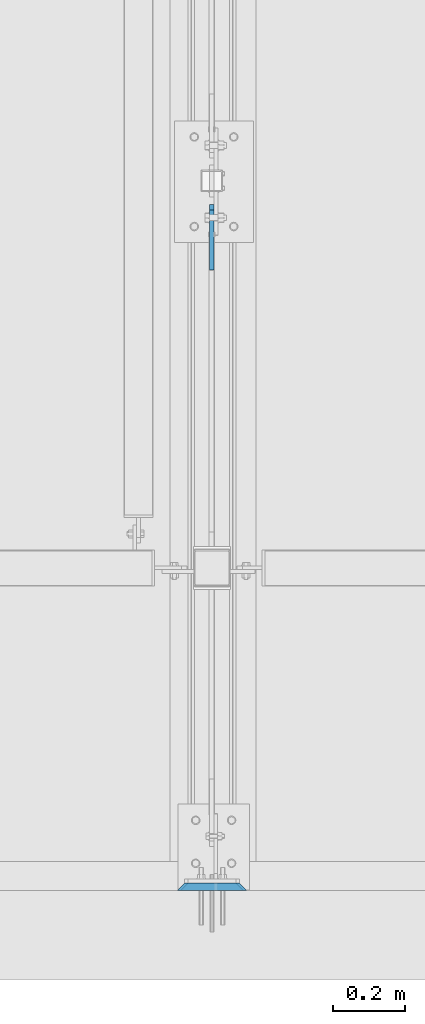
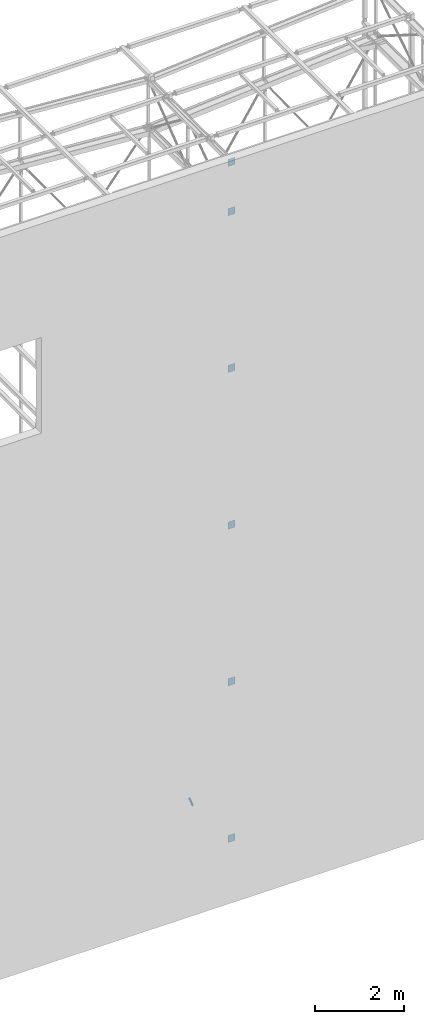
# One storey, part 118 of 271: 7 plates, 7 elements without a shape of their own.
"""IFC2X3 building model written with IfcOpenShell, lengths in millimetres."""

from ifc_helpers import new_model, si_unit, frame, origin_with_axes, place, context, subcontext, project, spatial, polyline, outline, extrude, boolean, material, type_object, element, aggregate, save


model = new_model("IFC2X3")

# Units and contexts
model_context = context("Model", 3, precision=1e-05, world=origin_with_axes())
body_context = subcontext(model_context, "Body", "Model", "MODEL_VIEW")
ifc_project = project(units=[si_unit("LENGTHUNIT", "METRE", prefix="MILLI"), si_unit("AREAUNIT", "SQUARE_METRE"), si_unit("VOLUMEUNIT", "CUBIC_METRE"), si_unit("MASSUNIT", "GRAM", prefix="KILO"), si_unit("TIMEUNIT", "SECOND"), si_unit("PLANEANGLEUNIT", "RADIAN"), si_unit("SOLIDANGLEUNIT", "STERADIAN"), si_unit("THERMODYNAMICTEMPERATUREUNIT", "DEGREE_CELSIUS"), si_unit("LUMINOUSINTENSITYUNIT", "LUMEN")], contexts=[model_context])

# Site, building, storey
site_placement = place(None, origin_with_axes())
site = spatial("IfcSite", under=ifc_project, at=site_placement, Name="Undefined", CompositionType="ELEMENT")
building_placement = place(site_placement, origin_with_axes())
building = spatial("IfcBuilding", under=site, at=building_placement, Name="Undefined", CompositionType="ELEMENT")
storey_placement = place(building_placement, origin_with_axes())
storey = spatial("IfcBuildingStorey", under=building, at=storey_placement, Name="Undefined", CompositionType="ELEMENT", Elevation=0.0)

# Assembly, plate
assembly_1_placement = place(storey_placement, origin_with_axes())
assembly_1 = element("IfcElementAssembly", 1, at=assembly_1_placement, inside=storey, AssemblyPlace="NOTDEFINED", PredefinedType="RIGID_FRAME")
ifc_material_1 = material(Name="STEEL/S355JR")
plate_type_1 = type_object("IfcPlateType", Name="BL12*56", PredefinedType="NOTDEFINED")
plate_1_placement = place(assembly_1_placement, frame((6347.37568798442, 1877.15039979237, 1327.23622031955), z_axis=(-1.0, 0.0, 1.38777878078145e-17), x_axis=(0.0, 0.98459558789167, -0.174847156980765)))
plate_1 = element("IfcPlate", 2, at=plate_1_placement, type_object=plate_type_1, material=ifc_material_1, Name="BLACHA", ObjectType="BL12*56", context=body_context, shape_type="SweptSolid", body=[
    extrude(outline(polyline([(0.0, 0.0), (21.2132034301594, 1.09139364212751e-11), (39.5979804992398, 18.3847751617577), (39.5979804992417, 39.5979804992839), (-86.9741363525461, 166.170089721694), (-100.762718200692, 152.381515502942), (-30.0520401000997, 81.670829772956), (-42.0728530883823, 69.6500167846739), (-112.783531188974, 140.36070251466), (-126.57211303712, 126.57211303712), (0.0, 0.0)])), frame((0.0, 0.0, -6.0), z_axis=(0.0, 0.0, 1.0), x_axis=(1.0, 0.0, 0.0)), (0.0, 0.0, 1.0), 12.0),
])
aggregate(assembly_1, [plate_1])

assembly_2_placement = place(storey_placement, origin_with_axes())
assembly_2 = element("IfcElementAssembly", 3, at=assembly_2_placement, inside=storey, Name="GROUT", AssemblyPlace="NOTDEFINED", PredefinedType="NOTDEFINED")
ifc_material_2 = material(Name="Undefined/GROUT")
plate_type_2 = type_object("IfcPlateType", Name="BL20*193", PredefinedType="NOTDEFINED")
plate_2_placement = place(assembly_2_placement, frame((6251.87568709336, 9.32498425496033, 1464.34999990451), z_axis=(0.0, 1.0, 0.0), x_axis=(1.0, 0.0, 0.0)))
plate_2 = element("IfcPlate", 4, at=plate_2_placement, type_object=plate_type_2, material=ifc_material_2, Name="GROUT", ObjectType="BL20*193", context=body_context, shape_type="CSG", body=[
    boolean("DIFFERENCE", boolean("DIFFERENCE", boolean("DIFFERENCE", boolean("DIFFERENCE", extrude(outline(polyline([(0.0, 0.0), (193.0, 0.0), (193.0, 200.0), (0.0, 200.0), (0.0, 0.0)])), frame((0.0, 0.0, -10.0), z_axis=(0.0, 0.0, 1.0), x_axis=(1.0, 0.0, 0.0)), (0.0, 0.0, 1.0), 20.0), extrude(outline(polyline([(0.0, 0.0), (44.2842712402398, -1.45519152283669e-11), (22.1421356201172, 22.1421356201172), (0.0, 0.0)])), frame((-5.65685424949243, 208.0, -15.6568542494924), z_axis=(0.0, -1.0, 0.0), x_axis=(0.707106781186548, 0.0, 0.707106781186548)), (0.0, 0.0, 1.0), 216.0)), extrude(outline(polyline([(0.0, 0.0), (42.2842712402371, -1.54614099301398e-11), (21.1421356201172, 21.1421356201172), (0.0, 0.0)])), frame((200.0, 204.949747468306, -14.9497474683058), z_axis=(-1.0, 0.0, 1.38777878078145e-17), x_axis=(0.0, -0.707106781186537, 0.707106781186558)), (0.0, 0.0, 1.0), 207.0)), extrude(outline(polyline([(0.0, 0.0), (40.2842712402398, -1.45519152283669e-11), (20.1421356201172, 20.1421356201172), (0.0, 0.0)])), frame((197.242640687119, -6.0, -14.2426406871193), z_axis=(0.0, 1.0, 0.0), x_axis=(-0.707106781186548, 0.0, 0.707106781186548)), (0.0, 0.0, 1.0), 212.0)), extrude(outline(polyline([(0.0, 0.0), (38.284271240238, -1.45519152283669e-11), (19.1421356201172, 19.1421356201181), (0.0, 0.0)])), frame((-5.0, -3.53553390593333, -13.5355339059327), z_axis=(1.0, 0.0, 0.0), x_axis=(0.0, 0.707106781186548, 0.707106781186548)), (0.0, 0.0, 1.0), 203.0)),
])
aggregate(assembly_2, [plate_2])

assembly_3_placement = place(storey_placement, origin_with_axes())
assembly_3 = element("IfcElementAssembly", 5, at=assembly_3_placement, inside=storey, Name="GROUT", AssemblyPlace="NOTDEFINED", PredefinedType="NOTDEFINED")
plate_3_placement = place(assembly_3_placement, frame((6251.87568709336, 9.32498425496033, 18744.3499999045), z_axis=(0.0, 1.0, 0.0), x_axis=(1.0, 0.0, 0.0)))
plate_3 = element("IfcPlate", 6, at=plate_3_placement, type_object=plate_type_2, material=ifc_material_2, Name="GROUT", ObjectType="BL20*193", context=body_context, shape_type="CSG", body=[
    boolean("DIFFERENCE", boolean("DIFFERENCE", boolean("DIFFERENCE", boolean("DIFFERENCE", extrude(outline(polyline([(0.0, 0.0), (193.0, 0.0), (193.0, 200.0), (0.0, 200.0), (0.0, 0.0)])), frame((0.0, 0.0, -10.0), z_axis=(0.0, 0.0, 1.0), x_axis=(1.0, 0.0, 0.0)), (0.0, 0.0, 1.0), 20.0), extrude(outline(polyline([(0.0, 0.0), (44.2842712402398, -1.45519152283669e-11), (22.1421356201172, 22.1421356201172), (0.0, 0.0)])), frame((-5.65685424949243, 208.0, -15.6568542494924), z_axis=(0.0, -1.0, 0.0), x_axis=(0.707106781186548, 0.0, 0.707106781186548)), (0.0, 0.0, 1.0), 216.0)), extrude(outline(polyline([(0.0, 0.0), (42.2842712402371, -1.54614099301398e-11), (21.1421356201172, 21.1421356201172), (0.0, 0.0)])), frame((200.0, 204.949747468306, -14.9497474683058), z_axis=(-1.0, 0.0, 1.38777878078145e-17), x_axis=(0.0, -0.707106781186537, 0.707106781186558)), (0.0, 0.0, 1.0), 207.0)), extrude(outline(polyline([(0.0, 0.0), (40.2842712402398, -1.45519152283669e-11), (20.1421356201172, 20.1421356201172), (0.0, 0.0)])), frame((197.242640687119, -6.0, -14.2426406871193), z_axis=(0.0, 1.0, 0.0), x_axis=(-0.707106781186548, 0.0, 0.707106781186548)), (0.0, 0.0, 1.0), 212.0)), extrude(outline(polyline([(0.0, 0.0), (38.284271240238, -1.45519152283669e-11), (19.1421356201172, 19.1421356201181), (0.0, 0.0)])), frame((-5.0, -3.53553390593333, -13.5355339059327), z_axis=(1.0, 0.0, 0.0), x_axis=(0.0, 0.707106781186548, 0.707106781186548)), (0.0, 0.0, 1.0), 203.0)),
])
aggregate(assembly_3, [plate_3])

assembly_4_placement = place(storey_placement, origin_with_axes())
assembly_4 = element("IfcElementAssembly", 7, at=assembly_4_placement, inside=storey, Name="GROUT", AssemblyPlace="NOTDEFINED", PredefinedType="NOTDEFINED")
plate_4_placement = place(assembly_4_placement, frame((6251.87568709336, 9.32498425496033, 5784.34999990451), z_axis=(0.0, 1.0, 0.0), x_axis=(1.0, 0.0, 0.0)))
plate_4 = element("IfcPlate", 8, at=plate_4_placement, type_object=plate_type_2, material=ifc_material_2, Name="GROUT", ObjectType="BL20*193", context=body_context, shape_type="CSG", body=[
    boolean("DIFFERENCE", boolean("DIFFERENCE", boolean("DIFFERENCE", boolean("DIFFERENCE", extrude(outline(polyline([(0.0, 0.0), (193.0, 0.0), (193.0, 200.0), (0.0, 200.0), (0.0, 0.0)])), frame((0.0, 0.0, -10.0), z_axis=(0.0, 0.0, 1.0), x_axis=(1.0, 0.0, 0.0)), (0.0, 0.0, 1.0), 20.0), extrude(outline(polyline([(0.0, 0.0), (44.2842712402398, -1.45519152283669e-11), (22.1421356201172, 22.1421356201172), (0.0, 0.0)])), frame((-5.65685424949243, 208.0, -15.6568542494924), z_axis=(0.0, -1.0, 0.0), x_axis=(0.707106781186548, 0.0, 0.707106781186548)), (0.0, 0.0, 1.0), 216.0)), extrude(outline(polyline([(0.0, 0.0), (42.2842712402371, -1.54614099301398e-11), (21.1421356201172, 21.1421356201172), (0.0, 0.0)])), frame((200.0, 204.949747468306, -14.9497474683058), z_axis=(-1.0, 0.0, 1.38777878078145e-17), x_axis=(0.0, -0.707106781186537, 0.707106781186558)), (0.0, 0.0, 1.0), 207.0)), extrude(outline(polyline([(0.0, 0.0), (40.2842712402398, -1.45519152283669e-11), (20.1421356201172, 20.1421356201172), (0.0, 0.0)])), frame((197.242640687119, -6.0, -14.2426406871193), z_axis=(0.0, 1.0, 0.0), x_axis=(-0.707106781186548, 0.0, 0.707106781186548)), (0.0, 0.0, 1.0), 212.0)), extrude(outline(polyline([(0.0, 0.0), (38.284271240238, -1.45519152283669e-11), (19.1421356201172, 19.1421356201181), (0.0, 0.0)])), frame((-5.0, -3.53553390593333, -13.5355339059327), z_axis=(1.0, 0.0, 0.0), x_axis=(0.0, 0.707106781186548, 0.707106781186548)), (0.0, 0.0, 1.0), 203.0)),
])
aggregate(assembly_4, [plate_4])

assembly_5_placement = place(storey_placement, origin_with_axes())
assembly_5 = element("IfcElementAssembly", 9, at=assembly_5_placement, inside=storey, Name="GROUT", AssemblyPlace="NOTDEFINED", PredefinedType="NOTDEFINED")
plate_5_placement = place(assembly_5_placement, frame((6251.87568709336, 9.32498425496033, 10104.3499999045), z_axis=(0.0, 1.0, 0.0), x_axis=(1.0, 0.0, 0.0)))
plate_5 = element("IfcPlate", 10, at=plate_5_placement, type_object=plate_type_2, material=ifc_material_2, Name="GROUT", ObjectType="BL20*193", context=body_context, shape_type="CSG", body=[
    boolean("DIFFERENCE", boolean("DIFFERENCE", boolean("DIFFERENCE", boolean("DIFFERENCE", extrude(outline(polyline([(0.0, 0.0), (193.0, 0.0), (193.0, 200.0), (0.0, 200.0), (0.0, 0.0)])), frame((0.0, 0.0, -10.0), z_axis=(0.0, 0.0, 1.0), x_axis=(1.0, 0.0, 0.0)), (0.0, 0.0, 1.0), 20.0), extrude(outline(polyline([(0.0, 0.0), (44.2842712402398, -1.45519152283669e-11), (22.1421356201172, 22.1421356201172), (0.0, 0.0)])), frame((-5.65685424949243, 208.0, -15.6568542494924), z_axis=(0.0, -1.0, 0.0), x_axis=(0.707106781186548, 0.0, 0.707106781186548)), (0.0, 0.0, 1.0), 216.0)), extrude(outline(polyline([(0.0, 0.0), (42.2842712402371, -1.54614099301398e-11), (21.1421356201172, 21.1421356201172), (0.0, 0.0)])), frame((200.0, 204.949747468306, -14.9497474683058), z_axis=(-1.0, 0.0, 1.38777878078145e-17), x_axis=(0.0, -0.707106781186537, 0.707106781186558)), (0.0, 0.0, 1.0), 207.0)), extrude(outline(polyline([(0.0, 0.0), (40.2842712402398, -1.45519152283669e-11), (20.1421356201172, 20.1421356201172), (0.0, 0.0)])), frame((197.242640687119, -6.0, -14.2426406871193), z_axis=(0.0, 1.0, 0.0), x_axis=(-0.707106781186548, 0.0, 0.707106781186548)), (0.0, 0.0, 1.0), 212.0)), extrude(outline(polyline([(0.0, 0.0), (38.284271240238, -1.45519152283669e-11), (19.1421356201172, 19.1421356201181), (0.0, 0.0)])), frame((-5.0, -3.53553390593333, -13.5355339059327), z_axis=(1.0, 0.0, 0.0), x_axis=(0.0, 0.707106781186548, 0.707106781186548)), (0.0, 0.0, 1.0), 203.0)),
])
aggregate(assembly_5, [plate_5])

assembly_6_placement = place(storey_placement, origin_with_axes())
assembly_6 = element("IfcElementAssembly", 11, at=assembly_6_placement, inside=storey, Name="GROUT", AssemblyPlace="NOTDEFINED", PredefinedType="NOTDEFINED")
plate_6_placement = place(assembly_6_placement, frame((6251.87568709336, 9.32498425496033, 14424.3499999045), z_axis=(0.0, 1.0, 0.0), x_axis=(1.0, 0.0, 0.0)))
plate_6 = element("IfcPlate", 12, at=plate_6_placement, type_object=plate_type_2, material=ifc_material_2, Name="GROUT", ObjectType="BL20*193", context=body_context, shape_type="CSG", body=[
    boolean("DIFFERENCE", boolean("DIFFERENCE", boolean("DIFFERENCE", boolean("DIFFERENCE", extrude(outline(polyline([(0.0, 0.0), (193.0, 0.0), (193.0, 200.0), (0.0, 200.0), (0.0, 0.0)])), frame((0.0, 0.0, -10.0), z_axis=(0.0, 0.0, 1.0), x_axis=(1.0, 0.0, 0.0)), (0.0, 0.0, 1.0), 20.0), extrude(outline(polyline([(0.0, 0.0), (44.2842712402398, -1.45519152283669e-11), (22.1421356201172, 22.1421356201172), (0.0, 0.0)])), frame((-5.65685424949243, 208.0, -15.6568542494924), z_axis=(0.0, -1.0, 0.0), x_axis=(0.707106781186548, 0.0, 0.707106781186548)), (0.0, 0.0, 1.0), 216.0)), extrude(outline(polyline([(0.0, 0.0), (42.2842712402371, -1.54614099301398e-11), (21.1421356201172, 21.1421356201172), (0.0, 0.0)])), frame((200.0, 204.949747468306, -14.9497474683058), z_axis=(-1.0, 0.0, 1.38777878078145e-17), x_axis=(0.0, -0.707106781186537, 0.707106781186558)), (0.0, 0.0, 1.0), 207.0)), extrude(outline(polyline([(0.0, 0.0), (40.2842712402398, -1.45519152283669e-11), (20.1421356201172, 20.1421356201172), (0.0, 0.0)])), frame((197.242640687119, -6.0, -14.2426406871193), z_axis=(0.0, 1.0, 0.0), x_axis=(-0.707106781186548, 0.0, 0.707106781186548)), (0.0, 0.0, 1.0), 212.0)), extrude(outline(polyline([(0.0, 0.0), (38.284271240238, -1.45519152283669e-11), (19.1421356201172, 19.1421356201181), (0.0, 0.0)])), frame((-5.0, -3.53553390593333, -13.5355339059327), z_axis=(1.0, 0.0, 0.0), x_axis=(0.0, 0.707106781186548, 0.707106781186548)), (0.0, 0.0, 1.0), 203.0)),
])
aggregate(assembly_6, [plate_6])

assembly_7_placement = place(storey_placement, origin_with_axes())
assembly_7 = element("IfcElementAssembly", 13, at=assembly_7_placement, inside=storey, Name="GROUT", AssemblyPlace="NOTDEFINED", PredefinedType="NOTDEFINED")
plate_type_3 = type_object("IfcPlateType", Name="BL20*174", PredefinedType="NOTDEFINED")
plate_7_placement = place(assembly_7_placement, frame((6261.37568709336, 9.32498425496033, 20104.3499999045), z_axis=(0.0, 1.0, 0.0), x_axis=(1.0, 0.0, 0.0)))
plate_7 = element("IfcPlate", 14, at=plate_7_placement, type_object=plate_type_3, material=ifc_material_2, Name="GROUT", ObjectType="BL20*174", context=body_context, shape_type="CSG", body=[
    boolean("DIFFERENCE", boolean("DIFFERENCE", boolean("DIFFERENCE", boolean("DIFFERENCE", extrude(outline(polyline([(0.0, 0.0), (174.0, 0.0), (174.0, 200.0), (0.0, 200.0), (0.0, 0.0)])), frame((0.0, 0.0, -10.0), z_axis=(0.0, 0.0, 1.0), x_axis=(1.0, 0.0, 0.0)), (0.0, 0.0, 1.0), 20.0), extrude(outline(polyline([(0.0, 0.0), (44.2842712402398, -1.45519152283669e-11), (22.1421356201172, 22.1421356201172), (0.0, 0.0)])), frame((-5.65685424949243, 208.0, -15.6568542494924), z_axis=(0.0, -1.0, 0.0), x_axis=(0.707106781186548, 0.0, 0.707106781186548)), (0.0, 0.0, 1.0), 216.0)), extrude(outline(polyline([(0.0, 0.0), (42.2842712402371, -1.54614099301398e-11), (21.1421356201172, 21.1421356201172), (0.0, 0.0)])), frame((181.0, 204.949747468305, -14.9497474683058), z_axis=(-1.0, 0.0, 1.38777878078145e-17), x_axis=(0.0, -0.707106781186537, 0.707106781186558)), (0.0, 0.0, 1.0), 188.0)), extrude(outline(polyline([(0.0, 0.0), (40.2842712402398, -1.45519152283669e-11), (20.1421356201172, 20.1421356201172), (0.0, 0.0)])), frame((178.242640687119, -6.0, -14.2426406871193), z_axis=(0.0, 1.0, 0.0), x_axis=(-0.707106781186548, 0.0, 0.707106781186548)), (0.0, 0.0, 1.0), 212.0)), extrude(outline(polyline([(0.0, 0.0), (38.284271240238, -1.45519152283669e-11), (19.1421356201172, 19.1421356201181), (0.0, 0.0)])), frame((-5.0, -3.53553390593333, -13.5355339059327), z_axis=(1.0, 0.0, 0.0), x_axis=(0.0, 0.707106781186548, 0.707106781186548)), (0.0, 0.0, 1.0), 184.0)),
])
aggregate(assembly_7, [plate_7])

save(model, "model.ifc")
